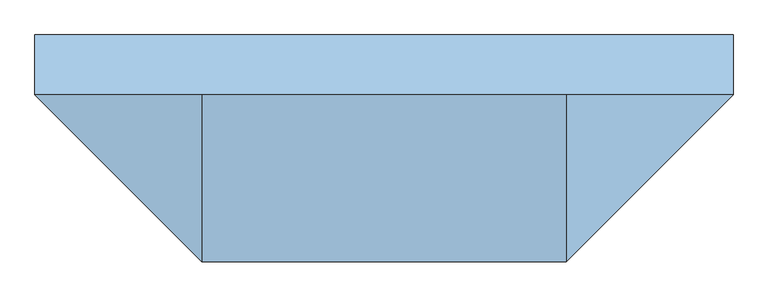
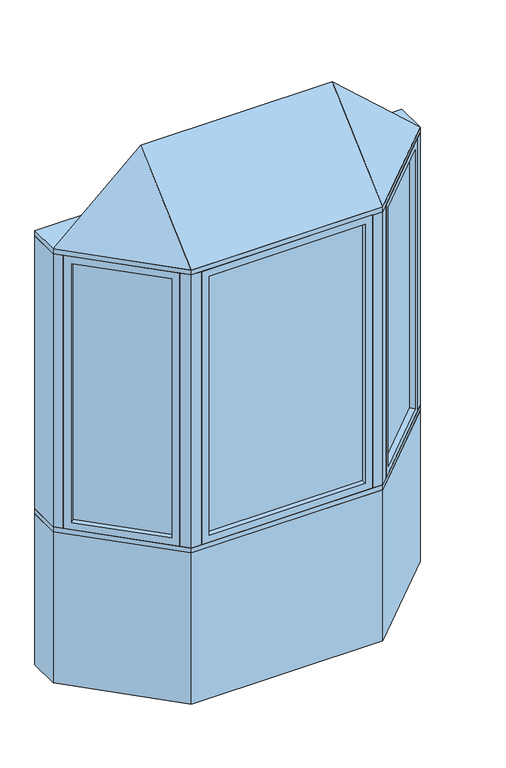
"""IFC4 building model written with IfcOpenShell, lengths in millimetres: window geometry, Pollard_Windows_Tudor Casement Bows and Bays : AML-BAY 45 AFR0514-08-500."""

from ifc_helpers import new_model, si_unit, frame, origin, origin_with_axes, place, context, project, spatial, polyline, outline, extrude, faceted_brep, source, transform, mapped, element, save


def window_8911c9c3(model_context):
    return source(origin(), model_context, "Body", "SolidModel", [
        extrude(outline(polyline([(824.0964271, -104.763169), (498.324814, -430.5347822), (494.7327115, -426.9426797), (820.5043247, -101.1710666), (824.0964271, -104.763169)])), frame((0.0, 0.0, 823.1628), z_axis=(0.0, 0.0, 1.0), x_axis=(1.0, 0.0, 0.0)), (0.0, 0.0, 1.0), 1353.6704),
        faceted_brep([(815.116171, -113.7434252, 835.8628), (833.0766833, -131.7039374, 835.8628), (833.0766833, -131.7039374, 2164.1332), (815.116171, -113.7434252, 2164.1332), (820.5043247, -101.1710666, 823.1628), (824.0964271, -104.763169, 823.1628), (824.0964271, -104.763169, 2176.8332), (820.5043247, -101.1710666, 2176.8332), (793.5635563, -92.1908105, 835.8628), (811.5240686, -110.1513227, 835.8628), (811.5240686, -110.1513227, 2164.1332), (793.5635563, -92.1908105, 2164.1332), (858.4369265, -106.3436941, 799.998), (818.9237996, -66.8305672, 799.998), (818.9237996, -66.8305672, 2199.998), (858.4369265, -106.3436941, 2199.998), (525.2655823, -439.5150383, 2164.1332), (507.3050701, -421.5545261, 2164.1332), (498.324814, -430.5347822, 2176.8332), (494.7327115, -426.9426797, 2176.8332), (503.7129677, -417.9624236, 2164.1332), (485.7524554, -400.0019114, 2164.1332), (460.3922121, -425.3621547, 2199.998), (499.9053391, -464.8752816, 2199.998), (525.2655823, -439.5150383, 835.8628), (507.3050701, -421.5545261, 835.8628), (498.324814, -430.5347822, 823.1628), (494.7327115, -426.9426797, 823.1628), (503.7129677, -417.9624236, 835.8628), (485.7524554, -400.0019114, 835.8628), (460.3922121, -425.3621547, 799.998), (499.9053391, -464.8752816, 799.998)], [[[0, 1, 2, 3]], [[4, 5, 6, 7]], [[8, 9, 10, 11]], [[12, 13, 14, 15]], [[3, 2, 16, 17]], [[7, 6, 18, 19]], [[11, 10, 20, 21]], [[15, 14, 22, 23]], [[17, 16, 24, 25]], [[19, 18, 26, 27]], [[21, 20, 28, 29]], [[23, 22, 30, 31]], [[25, 24, 1, 0]], [[5, 26, 18, 6], [3, 17, 25, 0]], [[27, 26, 5, 4]], [[7, 19, 27, 4], [9, 28, 20, 10]], [[29, 28, 9, 8]], [[13, 30, 22, 14], [11, 21, 29, 8]], [[31, 30, 13, 12]], [[15, 23, 31, 12], [1, 24, 16, 2]]]),
        extrude(outline(polyline([(-498.324814, -430.5347822), (-824.0964271, -104.763169), (-820.5043247, -101.1710666), (-494.7327115, -426.9426797), (-498.324814, -430.5347822)])), frame((0.0, 0.0, 823.1628), z_axis=(0.0, 0.0, 1.0), x_axis=(1.0, 0.0, 0.0)), (0.0, 0.0, 1.0), 1353.6704),
        faceted_brep([(-503.7129677, -417.9624236, 2164.1332), (-485.7524554, -400.0019114, 2164.1332), (-485.7524554, -400.0019114, 835.8628), (-503.7129677, -417.9624236, 835.8628), (-498.324814, -430.5347822, 2176.8332), (-494.7327115, -426.9426797, 2176.8332), (-494.7327115, -426.9426797, 823.1628), (-498.324814, -430.5347822, 823.1628), (-525.2655823, -439.5150383, 2164.1332), (-507.3050701, -421.5545261, 2164.1332), (-507.3050701, -421.5545261, 835.8628), (-525.2655823, -439.5150383, 835.8628), (-460.3922121, -425.3621547, 2199.998), (-499.9053391, -464.8752816, 2199.998), (-499.9053391, -464.8752816, 799.998), (-460.3922121, -425.3621547, 799.998), (-793.5635563, -92.1908105, 835.8628), (-811.5240686, -110.1513227, 835.8628), (-820.5043247, -101.1710666, 823.1628), (-824.0964271, -104.763169, 823.1628), (-815.116171, -113.7434252, 835.8628), (-833.0766833, -131.7039374, 835.8628), (-858.4369265, -106.3436941, 799.998), (-818.9237996, -66.8305672, 799.998), (-793.5635563, -92.1908105, 2164.1332), (-811.5240686, -110.1513227, 2164.1332), (-820.5043247, -101.1710666, 2176.8332), (-824.0964271, -104.763169, 2176.8332), (-815.116171, -113.7434252, 2164.1332), (-833.0766833, -131.7039374, 2164.1332), (-858.4369265, -106.3436941, 2199.998), (-818.9237996, -66.8305672, 2199.998)], [[[0, 1, 2, 3]], [[4, 5, 6, 7]], [[8, 9, 10, 11]], [[12, 13, 14, 15]], [[3, 2, 16, 17]], [[7, 6, 18, 19]], [[11, 10, 20, 21]], [[15, 14, 22, 23]], [[17, 16, 24, 25]], [[19, 18, 26, 27]], [[21, 20, 28, 29]], [[23, 22, 30, 31]], [[15, 23, 31, 12], [1, 24, 16, 2]], [[25, 24, 1, 0]], [[5, 26, 18, 6], [3, 17, 25, 0]], [[27, 26, 5, 4]], [[7, 19, 27, 4], [9, 28, 20, 10]], [[29, 28, 9, 8]], [[13, 30, 22, 14], [11, 21, 29, 8]], [[31, 30, 13, 12]]]),
        extrude(outline(polyline([(391.3852, -474.8306207), (-391.3852, -474.8306207), (-391.3852, -469.7506207), (391.3852, -469.7506207), (391.3852, -474.8306207)])), frame((0.0, 0.0, 823.1628), z_axis=(0.0, 0.0, 1.0), x_axis=(1.0, 0.0, 0.0)), (0.0, 0.0, 1.0), 1353.6704),
        faceted_brep([(378.6852, -474.8306207, 835.8628), (378.6852, -500.2306207, 835.8628), (378.6852, -500.2306207, 2164.1332), (378.6852, -474.8306207, 2164.1332), (391.3852, -469.7506207, 823.1628), (391.3852, -474.8306207, 823.1628), (391.3852, -474.8306207, 2176.8332), (391.3852, -469.7506207, 2176.8332), (378.6852, -444.3506207, 835.8628), (378.6852, -469.7506207, 835.8628), (378.6852, -469.7506207, 2164.1332), (378.6852, -444.3506207, 2164.1332), (414.55, -500.2306207, 799.998), (414.55, -444.3506207, 799.998), (414.55, -444.3506207, 2199.998), (414.55, -500.2306207, 2199.998), (-378.6852, -500.2306207, 2164.1332), (-378.6852, -474.8306207, 2164.1332), (-391.3852, -474.8306207, 2176.8332), (-391.3852, -469.7506207, 2176.8332), (-378.6852, -469.7506207, 2164.1332), (-378.6852, -444.3506207, 2164.1332), (-414.55, -444.3506207, 2199.998), (-414.55, -500.2306207, 2199.998), (-378.6852, -500.2306207, 835.8628), (-378.6852, -474.8306207, 835.8628), (-391.3852, -474.8306207, 823.1628), (-391.3852, -469.7506207, 823.1628), (-378.6852, -469.7506207, 835.8628), (-378.6852, -444.3506207, 835.8628), (-414.55, -444.3506207, 799.998), (-414.55, -500.2306207, 799.998)], [[[0, 1, 2, 3]], [[4, 5, 6, 7]], [[8, 9, 10, 11]], [[12, 13, 14, 15]], [[3, 2, 16, 17]], [[7, 6, 18, 19]], [[11, 10, 20, 21]], [[15, 14, 22, 23]], [[17, 16, 24, 25]], [[19, 18, 26, 27]], [[21, 20, 28, 29]], [[23, 22, 30, 31]], [[15, 23, 31, 12], [1, 24, 16, 2]], [[25, 24, 1, 0]], [[5, 26, 18, 6], [3, 17, 25, 0]], [[27, 26, 5, 4]], [[7, 19, 27, 4], [9, 28, 20, 10]], [[29, 28, 9, 8]], [[13, 30, 22, 14], [11, 21, 29, 8]], [[31, 30, 13, 12]]]),
        faceted_brep([(890.0, -74.7806207, 2225.398), (464.55, -500.2306207, 2225.398), (-464.55, -500.2306207, 2225.398), (-890.0, -74.7806207, 2225.398), (-464.55, -74.7806207, 2606.398), (464.55, -74.7806207, 2606.398)], [[[0, 1, 2, 3]], [[3, 2, 4]], [[2, 1, 5, 4]], [[1, 0, 5]], [[0, 3, 4, 5]]]),
        extrude(outline(polyline([(-890.0, 77.6193793), (890.0, 77.6193793), (890.0, -74.7806207), (464.55, -500.2306207), (-464.55, -500.2306207), (-890.0, -74.7806207), (-890.0, 77.6193793)])), frame((0.0, 0.0, 2199.998), z_axis=(0.0, 0.0, 1.0), x_axis=(1.0, 0.0, 0.0)), (0.0, 0.0, 1.0), 25.4),
        extrude(outline(polyline([(-890.0, -74.7806207), (-890.0, 77.6193793), (-826.8738531, 77.6193793), (-826.8738531, -74.7806207), (-858.4369265, -106.3436941), (-890.0, -74.7806207)])), frame((0.0, 0.0, 799.998), z_axis=(0.0, 0.0, 1.0), x_axis=(1.0, 0.0, 0.0)), (0.0, 0.0, 1.0), 1400.0),
        extrude(outline(polyline([(890.0, 77.6193793), (890.0, -74.7806207), (858.4369265, -106.3436941), (826.8738531, -74.7806207), (826.8738531, 77.6193793), (890.0, 77.6193793)])), frame((0.0, 0.0, 799.998), z_axis=(0.0, 0.0, 1.0), x_axis=(1.0, 0.0, 0.0)), (0.0, 0.0, 1.0), 1400.0),
        extrude(outline(polyline([(464.55, -500.2306207), (414.55, -500.2306207), (414.55, -450.2306207), (443.8393219, -450.2306207), (464.55, -429.5199425), (499.9053391, -464.8752816), (464.55, -500.2306207)])), frame((0.0, 0.0, 799.998), z_axis=(0.0, 0.0, 1.0), x_axis=(1.0, 0.0, 0.0)), (0.0, 0.0, 1.0), 1400.0),
        extrude(outline(polyline([(-464.55, -500.2306207), (-499.9053391, -464.8752816), (-464.55, -429.5199425), (-443.8393219, -450.2306207), (-414.55, -450.2306207), (-414.55, -500.2306207), (-464.55, -500.2306207)])), frame((0.0, 0.0, 799.998), z_axis=(0.0, 0.0, 1.0), x_axis=(1.0, 0.0, 0.0)), (0.0, 0.0, 1.0), 1400.0),
        extrude(outline(polyline([(-464.55, -500.2306207), (-890.0, -74.7806207), (-890.0, 77.6193793), (-826.8738531, 77.6193793), (-401.4238531, -347.8306207), (401.4238531, -347.8306207), (826.8738531, 77.6193793), (890.0, 77.6193793), (890.0, -74.7806207), (464.55, -500.2306207), (-464.55, -500.2306207)])), frame((0.0, 0.0, 774.598), z_axis=(0.0, 0.0, 1.0), x_axis=(1.0, 0.0, 0.0)), (0.0, 0.0, 1.0), 25.4),
        extrude(outline(polyline([(-890.0, -74.7806207), (-890.0, 77.6193793), (-826.8738531, 77.6193793), (-401.4238531, -347.8306207), (401.4238531, -347.8306207), (826.8738531, 77.6193793), (890.0, 77.6193793), (890.0, -74.7806207), (464.55, -500.2306207), (-464.55, -500.2306207), (-890.0, -74.7806207)])), origin_with_axes(), (0.0, 0.0, 1.0), 774.598),
    ])


if __name__ == "__main__":
    model = new_model("IFC4")
    model_context = context("Model", 3, world=origin())
    ifc_project = project(units=[si_unit("LENGTHUNIT", "METRE", prefix="MILLI")], contexts=[model_context])
    site = spatial("IfcSite", under=ifc_project)
    building = spatial("IfcBuilding", under=site)
    placement = place(None, origin())
    window_shape = window_8911c9c3(model_context)
    element("IfcWindow", 1, ObjectType="Pollard_Windows_Tudor Casement Bows and Bays : AML-BAY 45 AFR0514-08-500", at=placement, inside=building, context=model_context, shape_type="MappedRepresentation", body=[
        mapped(window_shape, transform((0.0, 0.0, 0.0), x_axis=(1.0, 0.0, 0.0), y_axis=(0.0, 1.0, 0.0), z_axis=(0.0, 0.0, 1.0))),
    ])
    save(model, "model.ifc")
